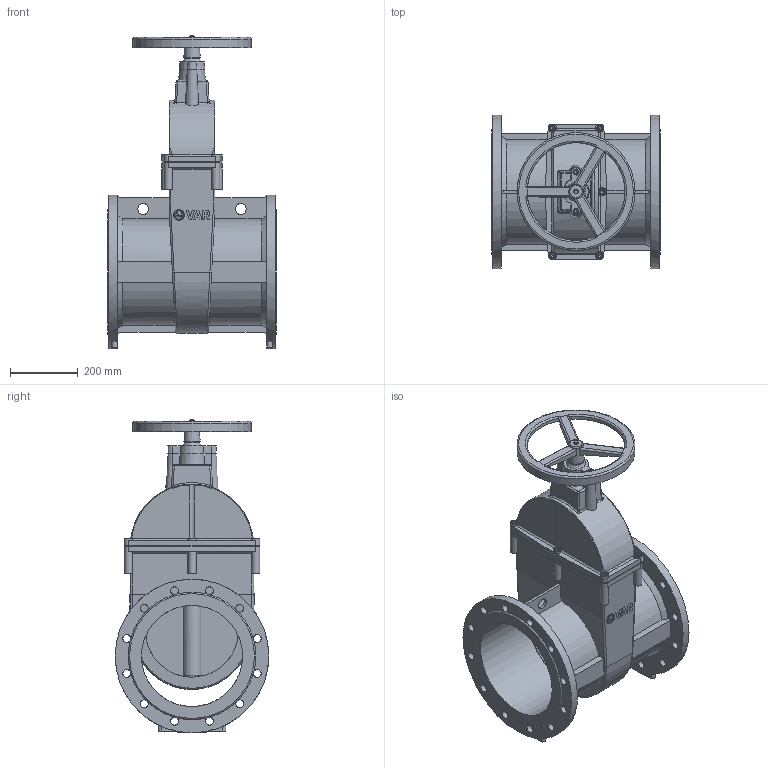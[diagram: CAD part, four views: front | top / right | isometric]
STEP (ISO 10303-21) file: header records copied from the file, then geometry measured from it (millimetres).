
FILE_DESCRIPTION(('STEP AP242'), '1');
FILE_NAME('青溻桄赅', '', ('UNSPECIFIED'), ('UNSPECIFIED'), 'C3D Converter', 'C3D Toolkit', '');
FILE_SCHEMA(('AP242_MANAGED_MODEL_BASED_3D_ENGINEERING_MIM_LF { 1 0 10303 442 1 1 4 }'));
Length unit declared in the file: millimetre
Assembly tree (17 placements, depth 2):
  (unnamed)
    (unnamed)
    (unnamed)
    (unnamed)
    (unnamed)
    (unnamed)  x2
    (unnamed)
    (unnamed)
    (unnamed)  x6
    (unnamed)  x2
    (unnamed)
Bounding box: 500 x 455 x 929.1 mm (x, y, z)
Volume: 19949181.8 mm3; surface area: 3347635.9 mm2
Topology: 20 solids, 20 shells, 969 faces, 2493 edges, 1594 vertices
Faces by surface type: plane 455, cylinder 202, extrusion 157, cone 69, bspline 65, torus 21
Full cylindrical faces by diameter (mm): 6 x3, 10 x8, 12 x30, 18 x16, 23 x24, 32.4 x1, 32.625 x2, 39 x7, 55.333 x4, 275.5 x2, 290 x1, 300 x5, 339.2 x4, 340 x1, 349 x1, 350 x1, 455 x2
Entity records: 45493 total; most frequent: CARTESIAN_POINT 23427, ORIENTED_EDGE 4086, DIRECTION 3204, EDGE_CURVE 2043, VERTEX_POINT 1401, EDGE_LOOP 1090, AXIS2_PLACEMENT_3D 1068, VECTOR 1068
